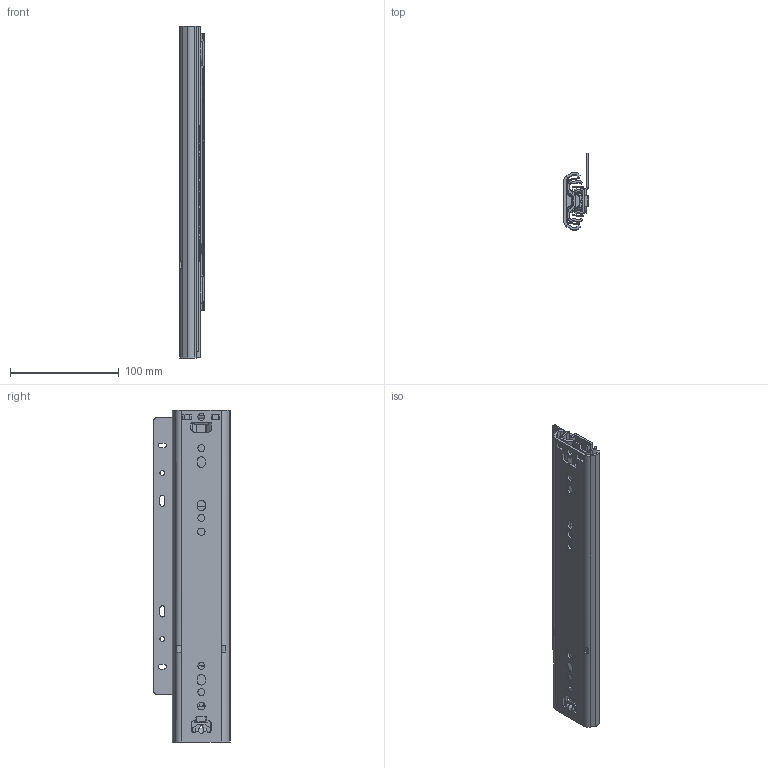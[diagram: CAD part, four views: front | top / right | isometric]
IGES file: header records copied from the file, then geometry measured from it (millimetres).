
Global section: file name: No Iges File Name specified; native system: Autodesk Inventor 2012; preprocessor: AutoDesk Inventor Iges Exporter R2012; author: HV83751; date: 20130708.085523; units: inch
Bounding box: 22.61 x 70.18 x 304.81 mm (x, y, z)
Surface area: 146884.6 mm2
Topology: 6 solids, 23 shells, 1314 faces, 3872 edges, 2490 vertices
Faces by surface type: plane 684, revolution 329, cylinder 258, bspline 34, torus 9
